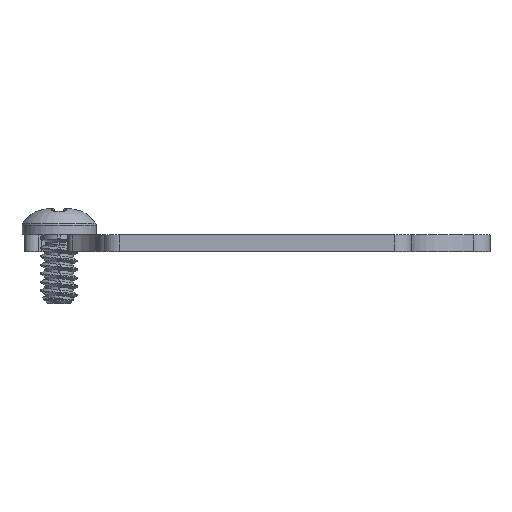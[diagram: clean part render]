
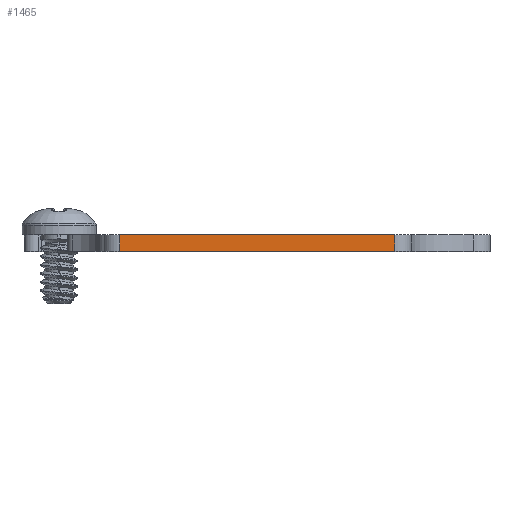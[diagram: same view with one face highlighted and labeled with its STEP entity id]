
A CAD part, top view. The second image highlights one B-rep face of the part: STEP entity #1465.
In plain terms, the highlighted planar face has unit normal (0, 0, 1).
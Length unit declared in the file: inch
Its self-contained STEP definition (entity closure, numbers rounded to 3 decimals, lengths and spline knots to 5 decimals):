
#1152 = CARTESIAN_POINT ( 'NONE',  ( 0.50197, 0.06, 0.75 ) ) ;
#1465 = ADVANCED_FACE ( 'NONE', ( #8736 ), #7510, .F. ) ;
#1727 = EDGE_CURVE ( 'NONE', #3881, #15290, #13188, .T. ) ;
#2591 = AXIS2_PLACEMENT_3D ( 'NONE', #4902, #4986, #16897 ) ;
#2764 = DIRECTION ( 'NONE',  ( 0., -1., 0. ) ) ;
#2934 = CARTESIAN_POINT ( 'NONE',  ( -0.50197, 0., 0.75 ) ) ;
#3865 = CARTESIAN_POINT ( 'NONE',  ( -0.50197, 0., 0.75 ) ) ;
#3881 = VERTEX_POINT ( 'NONE', #1152 ) ;
#4446 = EDGE_LOOP ( 'NONE', ( #9723, #9565, #9809, #8398 ) ) ;
#4512 = VECTOR ( 'NONE', #5587, 39.37008 ) ;
#4902 = CARTESIAN_POINT ( 'NONE',  ( -0.50197, 0.06, 0.75 ) ) ;
#4986 = DIRECTION ( 'NONE',  ( 0., 0., -1. ) ) ;
#5587 = DIRECTION ( 'NONE',  ( 1., 0., 0. ) ) ;
#6257 = VERTEX_POINT ( 'NONE', #2934 ) ;
#6673 = EDGE_CURVE ( 'NONE', #6257, #15290, #15535, .T. ) ;
#6976 = CARTESIAN_POINT ( 'NONE',  ( 0.50197, 0., 0.75 ) ) ;
#7510 = PLANE ( 'NONE',  #2591 ) ;
#8067 = CARTESIAN_POINT ( 'NONE',  ( -0.50197, 0.06, 0.75 ) ) ;
#8152 = CARTESIAN_POINT ( 'NONE',  ( 0.50197, 0.06, 0.75 ) ) ;
#8398 = ORIENTED_EDGE ( 'NONE', *, *, #9106, .T. ) ;
#8736 = FACE_OUTER_BOUND ( 'NONE', #4446, .T. ) ;
#8979 = VECTOR ( 'NONE', #13099, 39.37008 ) ;
#9092 = DIRECTION ( 'NONE',  ( 1., 0., 0. ) ) ;
#9106 = EDGE_CURVE ( 'NONE', #10423, #6257, #13621, .T. ) ;
#9565 = ORIENTED_EDGE ( 'NONE', *, *, #1727, .F. ) ;
#9723 = ORIENTED_EDGE ( 'NONE', *, *, #6673, .T. ) ;
#9809 = ORIENTED_EDGE ( 'NONE', *, *, #15327, .F. ) ;
#10423 = VERTEX_POINT ( 'NONE', #10746 ) ;
#10746 = CARTESIAN_POINT ( 'NONE',  ( -0.50197, 0.06, 0.75 ) ) ;
#10986 = LINE ( 'NONE', #12263, #4512 ) ;
#12263 = CARTESIAN_POINT ( 'NONE',  ( -0.50197, 0.06, 0.75 ) ) ;
#12600 = VECTOR ( 'NONE', #2764, 39.37008 ) ;
#13099 = DIRECTION ( 'NONE',  ( 0., -1., 0. ) ) ;
#13188 = LINE ( 'NONE', #8152, #8979 ) ;
#13621 = LINE ( 'NONE', #8067, #12600 ) ;
#14527 = VECTOR ( 'NONE', #9092, 39.37008 ) ;
#15290 = VERTEX_POINT ( 'NONE', #6976 ) ;
#15327 = EDGE_CURVE ( 'NONE', #10423, #3881, #10986, .T. ) ;
#15535 = LINE ( 'NONE', #3865, #14527 ) ;
#16897 = DIRECTION ( 'NONE',  ( -1., 0., 0. ) ) ;
